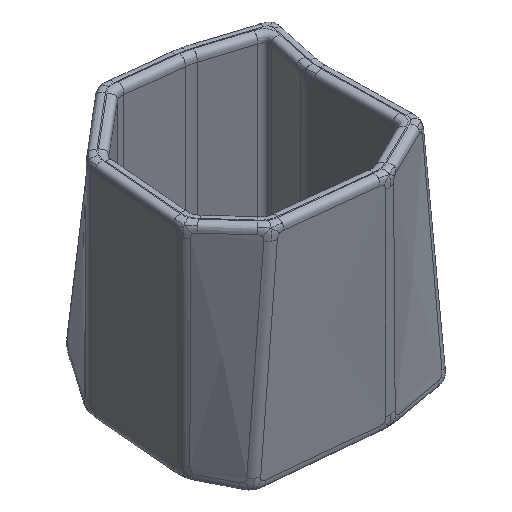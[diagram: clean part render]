
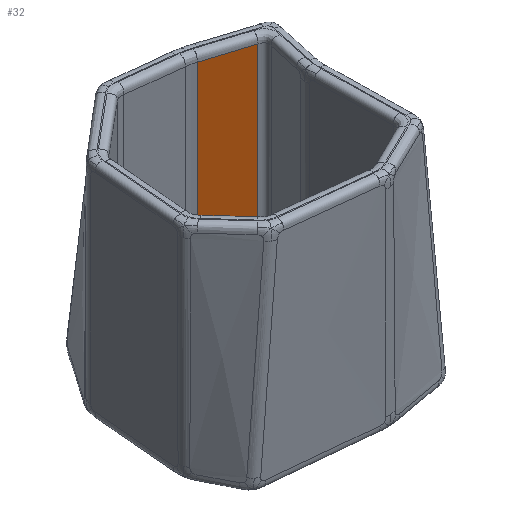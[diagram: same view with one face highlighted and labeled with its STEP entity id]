
A CAD part, isometric view. The second image highlights one B-rep face of the part: STEP entity #32.
In plain terms, the highlighted planar face has unit normal (-0.301, -0.954, 0).
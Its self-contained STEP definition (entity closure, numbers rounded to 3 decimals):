
#32=ADVANCED_FACE('',(#477),#7033,.T.);
#477=FACE_OUTER_BOUND('',#924,.T.);
#924=EDGE_LOOP('',(#1571,#1572,#1573,#1574,#1575,#1576,#1577,#1578));
#1571=ORIENTED_EDGE('',*,*,#3641,.T.);
#1572=ORIENTED_EDGE('',*,*,#4141,.F.);
#1573=ORIENTED_EDGE('',*,*,#4139,.F.);
#1574=ORIENTED_EDGE('',*,*,#3642,.T.);
#1575=ORIENTED_EDGE('',*,*,#3643,.T.);
#1576=ORIENTED_EDGE('',*,*,#3644,.F.);
#1577=ORIENTED_EDGE('',*,*,#4125,.F.);
#1578=ORIENTED_EDGE('',*,*,#4135,.F.);
#3641=EDGE_CURVE('',#6045,#6047,#4795,.T.);
#3642=EDGE_CURVE('',#6048,#6049,#4796,.T.);
#3643=EDGE_CURVE('',#6049,#6050,#4797,.T.);
#3644=EDGE_CURVE('',#6046,#6050,#4798,.T.);
#4125=EDGE_CURVE('',#6233,#6046,#5279,.T.);
#4135=EDGE_CURVE('',#6045,#6233,#5289,.T.);
#4139=EDGE_CURVE('',#6048,#6242,#5293,.T.);
#4141=EDGE_CURVE('',#6242,#6047,#5295,.T.);
#4795=B_SPLINE_CURVE_WITH_KNOTS('',1,(#37168,#37169),.UNSPECIFIED.,.F.,
 .F.,(2,2),(20.045,95.714),.UNSPECIFIED.);
#4796=B_SPLINE_CURVE_WITH_KNOTS('',1,(#37170,#37171),.UNSPECIFIED.,.F.,
 .F.,(2,2),(24.142,405.858),.UNSPECIFIED.);
#4797=B_SPLINE_CURVE_WITH_KNOTS('',1,(#37172,#37173),.UNSPECIFIED.,.F.,
 .F.,(2,2),(13.517,109.186),.UNSPECIFIED.);
#4798=B_SPLINE_CURVE_WITH_KNOTS('',1,(#37174,#37175),.UNSPECIFIED.,.F.,
 .F.,(2,2),(24.142,405.858),.UNSPECIFIED.);
#5279=B_SPLINE_CURVE_WITH_KNOTS('',5,(#40724,#40725,#40726,#40727,#40728,
#40729,#40730,#40731,#40732,#40733),.UNSPECIFIED.,.F.,.F.,(6,1,1,1,1,6),
(0.,0.2,0.4,0.6,0.8,1.),.UNSPECIFIED.);
#5289=B_SPLINE_CURVE_WITH_KNOTS('',5,(#40824,#40825,#40826,#40827,#40828,
#40829,#40830,#40831,#40832,#40833),.UNSPECIFIED.,.F.,.F.,(6,1,1,1,1,6),
(-1.,-0.8,-0.6,-0.4,-0.2,0.),.UNSPECIFIED.);
#5293=B_SPLINE_CURVE_WITH_KNOTS('',5,(#40864,#40865,#40866,#40867,#40868,
#40869,#40870,#40871,#40872,#40873),.UNSPECIFIED.,.F.,.F.,(6,1,1,1,1,6),
(-1.,-0.8,-0.6,-0.4,-0.2,0.),.UNSPECIFIED.);
#5295=B_SPLINE_CURVE_WITH_KNOTS('',5,(#40884,#40885,#40886,#40887,#40888,
#40889,#40890,#40891,#40892,#40893),.UNSPECIFIED.,.F.,.F.,(6,1,1,1,1,6),
(0.,0.2,0.4,0.6,0.8,1.),.UNSPECIFIED.);
#6045=VERTEX_POINT('',#36589);
#6046=VERTEX_POINT('',#36590);
#6047=VERTEX_POINT('',#36591);
#6048=VERTEX_POINT('',#36592);
#6049=VERTEX_POINT('',#36593);
#6050=VERTEX_POINT('',#36594);
#6233=VERTEX_POINT('',#36777);
#6242=VERTEX_POINT('',#36786);
#7033=PLANE('',#7156);
#7156=AXIS2_PLACEMENT_3D('',#7320,#7204,$);
#7204=DIRECTION('',(-0.301,-0.954,0.));
#7320=CARTESIAN_POINT('',(-255.221,222.384,450.));
#36589=CARTESIAN_POINT('',(-236.107,216.344,44.142));
#36590=CARTESIAN_POINT('',(-245.642,219.357,54.142));
#36591=CARTESIAN_POINT('',(-163.954,193.547,44.142));
#36592=CARTESIAN_POINT('',(-154.419,190.534,54.142));
#36593=CARTESIAN_POINT('',(-154.419,190.534,435.858));
#36594=CARTESIAN_POINT('',(-245.642,219.357,435.858));
#36777=CARTESIAN_POINT('',(-243.095,218.552,46.476));
#36786=CARTESIAN_POINT('',(-156.845,191.301,46.599));
#37168=CARTESIAN_POINT('',(-236.107,216.344,44.142));
#37169=CARTESIAN_POINT('',(-163.954,193.547,44.142));
#37170=CARTESIAN_POINT('',(-154.419,190.534,54.142));
#37171=CARTESIAN_POINT('',(-154.419,190.534,435.858));
#37172=CARTESIAN_POINT('',(-154.419,190.534,435.858));
#37173=CARTESIAN_POINT('',(-245.642,219.357,435.858));
#37174=CARTESIAN_POINT('',(-245.642,219.357,54.142));
#37175=CARTESIAN_POINT('',(-245.642,219.357,435.858));
#40724=CARTESIAN_POINT('',(-243.095,218.552,46.476));
#40725=CARTESIAN_POINT('',(-243.299,218.617,46.676));
#40726=CARTESIAN_POINT('',(-243.686,218.739,47.097));
#40727=CARTESIAN_POINT('',(-244.206,218.903,47.792));
#40728=CARTESIAN_POINT('',(-244.776,219.083,48.848));
#40729=CARTESIAN_POINT('',(-245.286,219.244,50.381));
#40730=CARTESIAN_POINT('',(-245.53,219.322,51.779));
#40731=CARTESIAN_POINT('',(-245.622,219.351,52.923));
#40732=CARTESIAN_POINT('',(-245.642,219.357,53.729));
#40733=CARTESIAN_POINT('',(-245.642,219.357,54.142));
#40824=CARTESIAN_POINT('',(-236.107,216.344,44.142));
#40825=CARTESIAN_POINT('',(-236.475,216.461,44.142));
#40826=CARTESIAN_POINT('',(-237.195,216.688,44.161));
#40827=CARTESIAN_POINT('',(-238.22,217.012,44.245));
#40828=CARTESIAN_POINT('',(-239.481,217.41,44.469));
#40829=CARTESIAN_POINT('',(-240.878,217.852,44.936));
#40830=CARTESIAN_POINT('',(-241.854,218.16,45.459));
#40831=CARTESIAN_POINT('',(-242.506,218.366,45.935));
#40832=CARTESIAN_POINT('',(-242.904,218.492,46.29));
#40833=CARTESIAN_POINT('',(-243.095,218.552,46.476));
#40864=CARTESIAN_POINT('',(-154.419,190.534,54.142));
#40865=CARTESIAN_POINT('',(-154.419,190.534,53.739));
#40866=CARTESIAN_POINT('',(-154.438,190.541,52.952));
#40867=CARTESIAN_POINT('',(-154.526,190.568,51.833));
#40868=CARTESIAN_POINT('',(-154.758,190.642,50.463));
#40869=CARTESIAN_POINT('',(-155.244,190.795,48.955));
#40870=CARTESIAN_POINT('',(-155.787,190.967,47.91));
#40871=CARTESIAN_POINT('',(-156.282,191.123,47.219));
#40872=CARTESIAN_POINT('',(-156.651,191.24,46.799));
#40873=CARTESIAN_POINT('',(-156.845,191.301,46.599));
#40884=CARTESIAN_POINT('',(-156.845,191.301,46.599));
#40885=CARTESIAN_POINT('',(-157.035,191.361,46.402));
#40886=CARTESIAN_POINT('',(-157.435,191.488,46.029));
#40887=CARTESIAN_POINT('',(-158.092,191.695,45.528));
#40888=CARTESIAN_POINT('',(-159.079,192.007,44.977));
#40889=CARTESIAN_POINT('',(-160.501,192.456,44.486));
#40890=CARTESIAN_POINT('',(-161.789,192.863,44.25));
#40891=CARTESIAN_POINT('',(-162.839,193.195,44.162));
#40892=CARTESIAN_POINT('',(-163.576,193.428,44.142));
#40893=CARTESIAN_POINT('',(-163.954,193.547,44.142));
